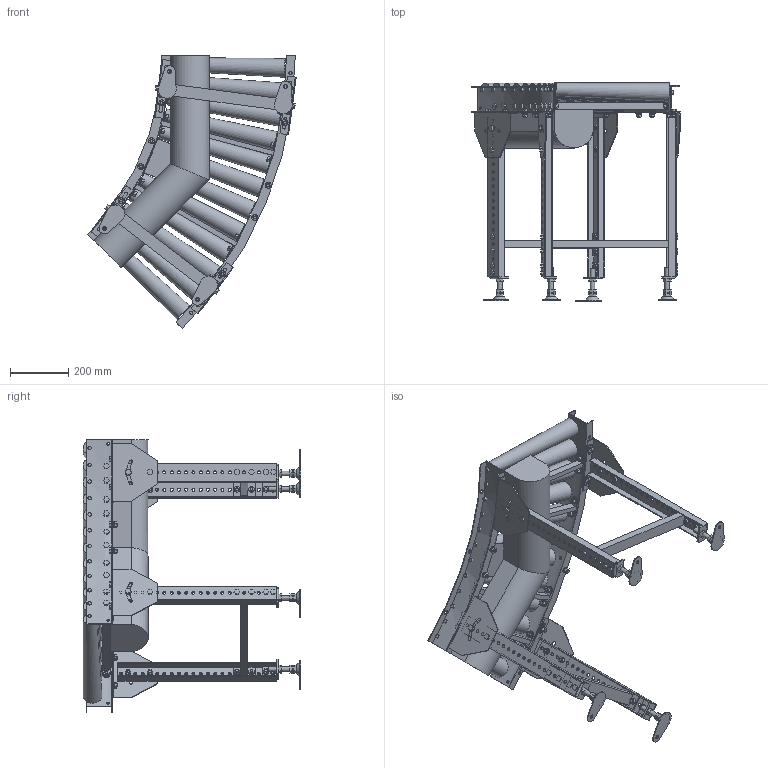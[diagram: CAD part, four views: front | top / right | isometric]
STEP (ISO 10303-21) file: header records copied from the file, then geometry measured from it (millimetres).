
FILE_DESCRIPTION( (''), '2;1');
FILE_NAME ('WEB-MCD-50-400-75-45°-C9.stp','2026-02-20T12:13:21',(''),(''),'spGate 20.6.2 (****-****-****-****)','','');
FILE_SCHEMA (('AUTOMOTIVE_DESIGN'));
Length unit declared in the file: millimetre
Products named in the file (34): WEB-MCD-50-400-75-45_-C9; TEMP_X_T-prt0; TEMP_X_T-prt1; TEMP_X_T-prt2; TEMP_X_T-prt3; TEMP_X_T-prt4; TEMP_X_T-prt5; TEMP_X_T-prt6; TEMP_X_T-prt7; TEMP_X_T-prt8; TEMP_X_T-prt9; TEMP_X_T-prt10; TEMP_X_T-prt11; TEMP_X_T-prt12; TEMP_X_T-prt13; TEMP_X_T-prt14; TEMP_X_T-prt15; TEMP_X_T-prt16; TEMP_X_T-prt17; TEMP_X_T-prt18; TEMP_X_T-prt19; TEMP_X_T-prt20; TEMP_X_T-prt21; TEMP_X_T-prt22; TEMP_X_T-prt23; TEMP_X_T-prt24; TEMP_X_T-prt25; TEMP_X_T-prt26; TEMP_X_T-prt27; TEMP_X_T-prt28; TEMP_X_T-prt29; TEMP_X_T-prt30; TEMP_X_T-prt31; TEMP_X_T-prt32
Assembly tree (33 placements, depth 2):
  WEB-MCD-50-400-75-45_-C9
    TEMP_X_T-prt0
    TEMP_X_T-prt1
    TEMP_X_T-prt2
    TEMP_X_T-prt3
    TEMP_X_T-prt4
    TEMP_X_T-prt5
    TEMP_X_T-prt6
    TEMP_X_T-prt7
    TEMP_X_T-prt8
    TEMP_X_T-prt9
    TEMP_X_T-prt10
    TEMP_X_T-prt11
    TEMP_X_T-prt12
    TEMP_X_T-prt13
    TEMP_X_T-prt14
    TEMP_X_T-prt15
    TEMP_X_T-prt16
    TEMP_X_T-prt17
    TEMP_X_T-prt18
    TEMP_X_T-prt19
    TEMP_X_T-prt20
    TEMP_X_T-prt21
    TEMP_X_T-prt22
    TEMP_X_T-prt23
    TEMP_X_T-prt24
    TEMP_X_T-prt25
    TEMP_X_T-prt26
    TEMP_X_T-prt27
    TEMP_X_T-prt28
    TEMP_X_T-prt29
    TEMP_X_T-prt30
    TEMP_X_T-prt31
    TEMP_X_T-prt32
Bounding box: 717.85 x 749.97 x 940.45 mm (x, y, z)
Volume: 28065918.5 mm3; surface area: 2979060.2 mm2
Topology: 33 solids, 53 shells, 2350 faces, 5648 edges, 3636 vertices
Faces by surface type: plane 1966, cylinder 368, bspline 16
Full cylindrical faces by diameter (mm): 8.5 x4, 10 x68, 10.5 x92, 11 x4, 12 x24, 13 x4, 14 x6, 16 x4, 18.4 x46, 18.5 x8, 21 x34
Entity records: 117919 total; most frequent: CARTESIAN_POINT 14478, DIRECTION 11795, ORIENTED_EDGE 11296, COLOUR_RGB 8031, PRESENTATION_STYLE_ASSIGNMENT 8031, STYLED_ITEM 8031, EDGE_CURVE 5648, DRAUGHTING_PRE_DEFINED_CURVE_FONT 5648
